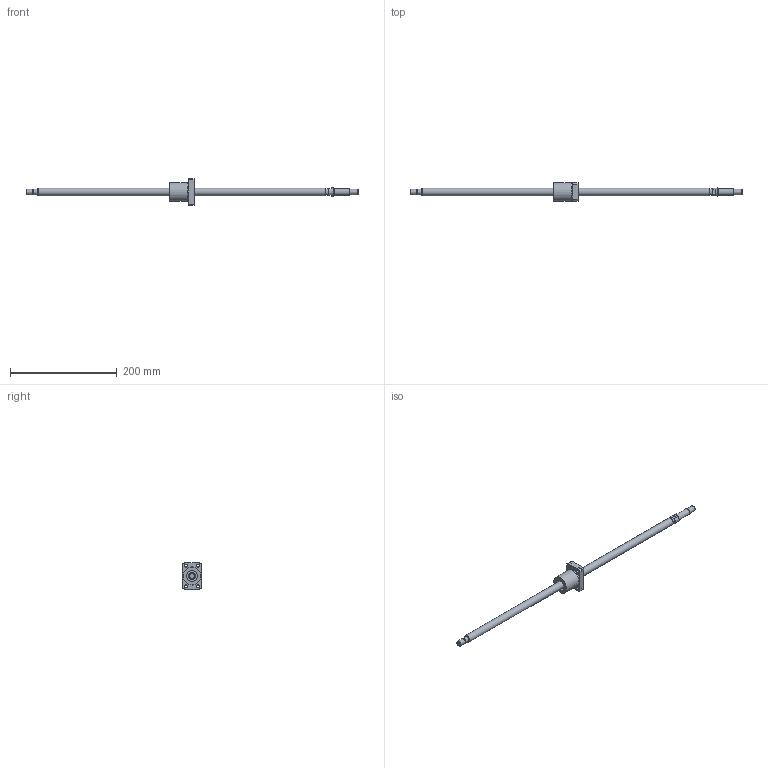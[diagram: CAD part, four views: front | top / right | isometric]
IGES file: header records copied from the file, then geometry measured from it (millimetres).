
Start section: Data from Parasolid IGES Translator 26.0.171, Copyright(c) 2006 Siemens PLM Software. All Rights Reserved.
Global section: file name: BNK1408-2.5RRG0+621LC5Y(292.50).igs; native system: By Siemens PLM Incorporated; preprocessor: XPlus GENERIC/IGES 26.0.171; author: Noname; organization: Noname; date: 20240709.091743; units: millimetre
Bounding box: 621 x 34 x 50 mm (x, y, z)
Surface area: 38959.3 mm2 (no closed solid volume)
Topology: 0 solids, 0 shells, 74 faces, 333 edges, 292 vertices
Faces by surface type: revolution 46, extrusion 28
